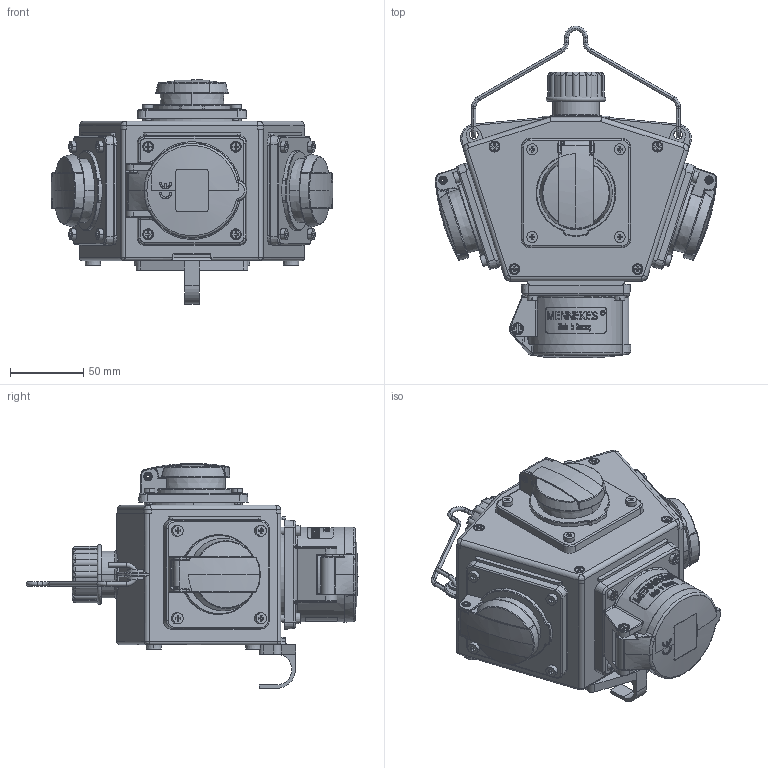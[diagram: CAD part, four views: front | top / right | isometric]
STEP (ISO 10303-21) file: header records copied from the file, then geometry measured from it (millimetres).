
FILE_DESCRIPTION((''),'2;1');
FILE_NAME('1117211_ASM_SW0004','2018-05-23T',('gisse'),('MENNEKES'),'PRO/ENGINEER BY PARAMETRIC TECHNOLOGY CORPORATION, 2015440','PRO/ENGINEER BY PARAMETRIC TECHNOLOGY CORPORATION, 2015440','');
FILE_SCHEMA(('AUTOMOTIVE_DESIGN { 1 0 10303 214 1 1 1 1 }'));
Products named in the file (1): 1117211_ASM_SW0004
Bounding box: 192.82 x 227.36 x 154.05 mm (x, y, z)
Volume: 1772955.7 mm3; surface area: 140565.7 mm2
Topology: 2 solids, 4 shells, 2600 faces, 6712 edges, 4215 vertices
Faces by surface type: plane 1198, cylinder 607, torus 275, bspline 246, cone 234, sphere 40
Entity records: 146184 total; most frequent: CARTESIAN_POINT 35417, ORIENTED_EDGE 13336, DIRECTION 11753, PRESENTATION_STYLE_ASSIGNMENT 9183, STYLED_ITEM 6670, CURVE_STYLE 6668, EDGE_CURVE 6668, FILL_AREA_STYLE_COLOUR 4996
